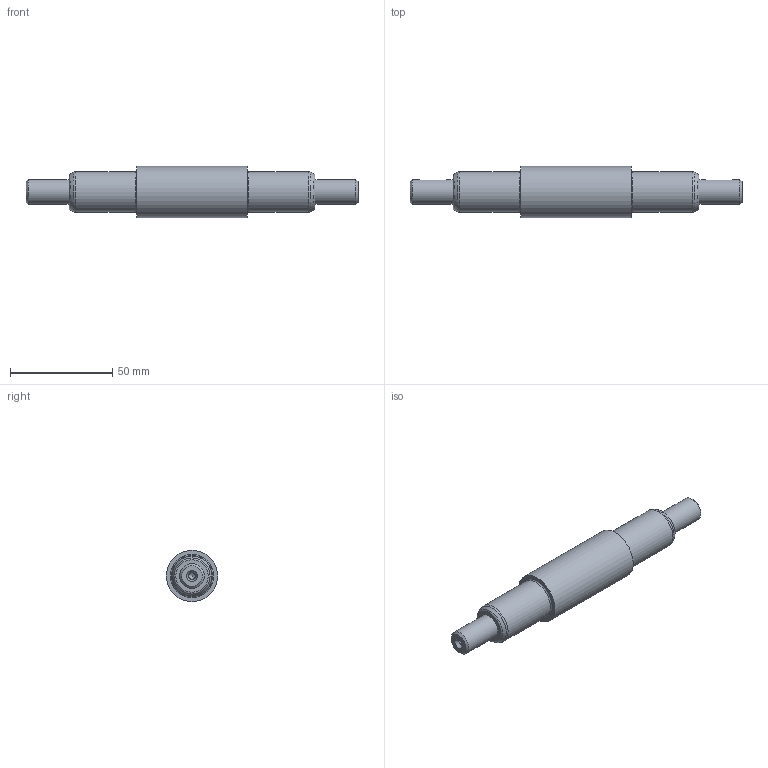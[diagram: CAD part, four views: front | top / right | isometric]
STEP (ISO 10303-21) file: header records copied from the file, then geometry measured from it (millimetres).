
FILE_DESCRIPTION(/* description */ (''),/* implementation_level */ '2;1');
FILE_NAME(/* name */ '',/* time_stamp */ '2026-03-26T11:22:58+09:00',/* author */ ('jhkim'),/* organization */ (''),/* preprocessor_version */ 'ST-DEVELOPER v20.1',/* originating_system */ 'Autodesk Inventor 2026',/* authorisation */ '');
FILE_SCHEMA (('AUTOMOTIVE_DESIGN { 1 0 10303 214 3 1 1 }'));
Length unit declared in the file: millimetre
Products named in the file (1): 축
Bounding box: 162 x 25 x 25 mm (x, y, z)
Volume: 51279.9 mm3; surface area: 11047.8 mm2
Topology: 1 solids, 1 shells, 37 faces, 87 edges, 58 vertices
Faces by surface type: plane 12, cylinder 11, cone 8, torus 6
Full cylindrical faces by diameter (mm): 3.242 x2, 12 x2, 20 x2, 25 x1
Entity records: 1176 total; most frequent: CARTESIAN_POINT 253, DIRECTION 199, ORIENTED_EDGE 170, EDGE_CURVE 85, AXIS2_PLACEMENT_3D 84, VERTEX_POINT 58, CIRCLE 46, EDGE_LOOP 45
